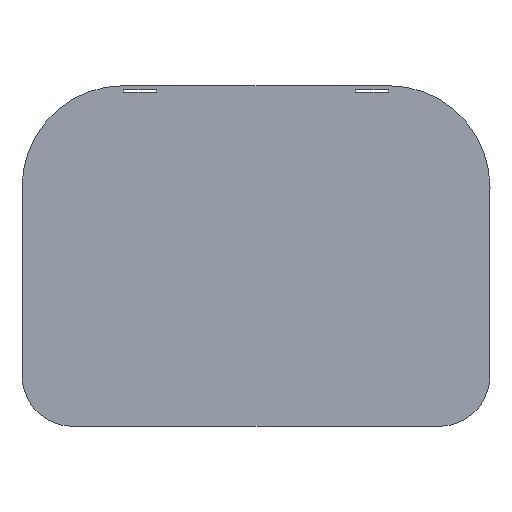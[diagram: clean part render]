
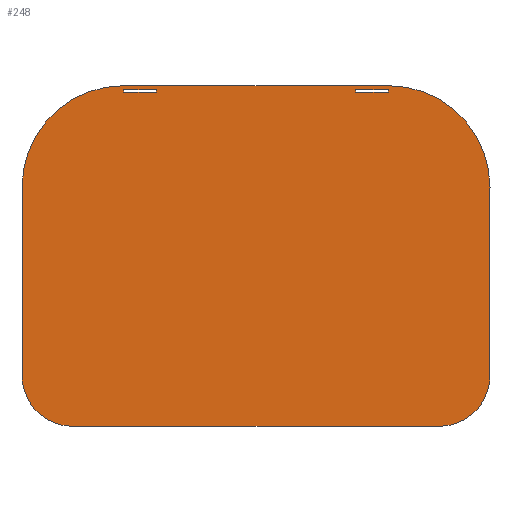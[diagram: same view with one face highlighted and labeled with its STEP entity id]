
A CAD part, top view. The second image highlights one B-rep face of the part: STEP entity #248.
In plain terms, the highlighted planar face has unit normal (0, 0, 1).
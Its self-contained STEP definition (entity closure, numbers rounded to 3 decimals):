
#7 = EDGE_CURVE ( 'NONE', #526, #590, #242, .T. ) ;
#11 = DIRECTION ( 'NONE',  ( 0., -1., 0. ) ) ;
#19 = AXIS2_PLACEMENT_3D ( 'NONE', #596, #556, #226 ) ;
#24 = CARTESIAN_POINT ( 'NONE',  ( 97573.971, 51266.605, 1.2 ) ) ;
#26 = EDGE_CURVE ( 'NONE', #184, #189, #566, .T. ) ;
#39 = LINE ( 'NONE', #360, #333 ) ;
#55 = DIRECTION ( 'NONE',  ( 0., -1., 0. ) ) ;
#57 = EDGE_CURVE ( 'NONE', #590, #597, #208, .T. ) ;
#61 = EDGE_CURVE ( 'NONE', #283, #174, #586, .T. ) ;
#63 = LINE ( 'NONE', #432, #537 ) ;
#72 = EDGE_CURVE ( 'NONE', #398, #263, #229, .T. ) ;
#77 = LINE ( 'NONE', #160, #152 ) ;
#81 = ORIENTED_EDGE ( 'NONE', *, *, #611, .F. ) ;
#84 = EDGE_CURVE ( 'NONE', #490, #184, #438, .T. ) ;
#85 = ORIENTED_EDGE ( 'NONE', *, *, #7, .F. ) ;
#100 = VECTOR ( 'NONE', #11, 1000. ) ;
#102 = DIRECTION ( 'NONE',  ( 0., 1., 0. ) ) ;
#104 = CARTESIAN_POINT ( 'NONE',  ( 97833.971, 51266.605, 1.2 ) ) ;
#106 = DIRECTION ( 'NONE',  ( 1., 0., 0. ) ) ;
#124 = VERTEX_POINT ( 'NONE', #343 ) ;
#127 = CIRCLE ( 'NONE', #145, 50. ) ;
#133 = DIRECTION ( 'NONE',  ( 1., 0., 0. ) ) ;
#136 = CARTESIAN_POINT ( 'NONE',  ( 97605.971, 51264.105, 1.2 ) ) ;
#137 = EDGE_CURVE ( 'NONE', #377, #398, #63, .T. ) ;
#138 = CARTESIAN_POINT ( 'NONE',  ( 97833.971, 51264.105, 1.2 ) ) ;
#145 = AXIS2_PLACEMENT_3D ( 'NONE', #278, #455, #409 ) ;
#146 = VECTOR ( 'NONE', #161, 1000. ) ;
#149 = ORIENTED_EDGE ( 'NONE', *, *, #347, .T. ) ;
#151 = CARTESIAN_POINT ( 'NONE',  ( 97573.971, 51266.605, 1.2 ) ) ;
#152 = VECTOR ( 'NONE', #260, 1000. ) ;
#155 = CARTESIAN_POINT ( 'NONE',  ( 97801.971, 51266.605, 1.2 ) ) ;
#157 = CARTESIAN_POINT ( 'NONE',  ( 97801.971, 51266.605, 1.2 ) ) ;
#160 = CARTESIAN_POINT ( 'NONE',  ( 97933.971, 50985.712, 1.2 ) ) ;
#161 = DIRECTION ( 'NONE',  ( -1., 0., 0. ) ) ;
#163 = ORIENTED_EDGE ( 'NONE', *, *, #431, .T. ) ;
#165 = EDGE_CURVE ( 'NONE', #189, #222, #424, .T. ) ;
#169 = ORIENTED_EDGE ( 'NONE', *, *, #84, .F. ) ;
#172 = ORIENTED_EDGE ( 'NONE', *, *, #137, .T. ) ;
#174 = VERTEX_POINT ( 'NONE', #565 ) ;
#177 = ORIENTED_EDGE ( 'NONE', *, *, #511, .T. ) ;
#184 = VERTEX_POINT ( 'NONE', #138 ) ;
#187 = DIRECTION ( 'NONE',  ( -1., 0., 0. ) ) ;
#189 = VERTEX_POINT ( 'NONE', #473 ) ;
#201 = DIRECTION ( 'NONE',  ( 0., 0., 1. ) ) ;
#206 = CARTESIAN_POINT ( 'NONE',  ( 97523.971, 50985.712, 1.2 ) ) ;
#208 = LINE ( 'NONE', #151, #382 ) ;
#212 = ORIENTED_EDGE ( 'NONE', *, *, #165, .F. ) ;
#214 = CARTESIAN_POINT ( 'NONE',  ( 97833.971, 51170.605, 1.2 ) ) ;
#217 = CARTESIAN_POINT ( 'NONE',  ( 97833.971, 51270.605, 1.2 ) ) ;
#222 = VERTEX_POINT ( 'NONE', #155 ) ;
#226 = DIRECTION ( 'NONE',  ( 1., 0., 0. ) ) ;
#229 = CIRCLE ( 'NONE', #304, 50. ) ;
#231 = CARTESIAN_POINT ( 'NONE',  ( 97605.971, 51264.105, 1.2 ) ) ;
#237 = EDGE_LOOP ( 'NONE', ( #212, #383, #169, #324 ) ) ;
#242 = LINE ( 'NONE', #428, #303 ) ;
#243 = EDGE_CURVE ( 'NONE', #222, #490, #583, .T. ) ;
#246 = DIRECTION ( 'NONE',  ( 0., 0., 1. ) ) ;
#247 = DIRECTION ( 'NONE',  ( 1., 0., 0. ) ) ;
#248 = ADVANCED_FACE ( 'NONE', ( #476, #405, #512 ), #507, .T. ) ;
#250 = CARTESIAN_POINT ( 'NONE',  ( 97833.971, 51270.605, 1.2 ) ) ;
#256 = LINE ( 'NONE', #24, #368 ) ;
#257 = EDGE_LOOP ( 'NONE', ( #445, #547, #163, #172, #401, #177, #275, #149 ) ) ;
#260 = DIRECTION ( 'NONE',  ( 0., 1., 0. ) ) ;
#263 = VERTEX_POINT ( 'NONE', #370 ) ;
#275 = ORIENTED_EDGE ( 'NONE', *, *, #292, .T. ) ;
#276 = CARTESIAN_POINT ( 'NONE',  ( 97605.971, 51266.605, 1.2 ) ) ;
#278 = CARTESIAN_POINT ( 'NONE',  ( 97883.971, 50985.712, 1.2 ) ) ;
#283 = VERTEX_POINT ( 'NONE', #217 ) ;
#286 = AXIS2_PLACEMENT_3D ( 'NONE', #481, #530, #106 ) ;
#292 = EDGE_CURVE ( 'NONE', #423, #569, #127, .T. ) ;
#293 = DIRECTION ( 'NONE',  ( 0., 1., 0. ) ) ;
#297 = EDGE_LOOP ( 'NONE', ( #81, #609, #501, #85 ) ) ;
#303 = VECTOR ( 'NONE', #102, 1000. ) ;
#304 = AXIS2_PLACEMENT_3D ( 'NONE', #206, #201, #247 ) ;
#324 = ORIENTED_EDGE ( 'NONE', *, *, #243, .F. ) ;
#326 = CARTESIAN_POINT ( 'NONE',  ( 97801.971, 51264.105, 1.2 ) ) ;
#333 = VECTOR ( 'NONE', #133, 1000. ) ;
#338 = CARTESIAN_POINT ( 'NONE',  ( 97801.971, 51264.105, 1.2 ) ) ;
#340 = CARTESIAN_POINT ( 'NONE',  ( 97883.971, 50935.712, 1.2 ) ) ;
#343 = CARTESIAN_POINT ( 'NONE',  ( 97573.971, 51264.105, 1.2 ) ) ;
#347 = EDGE_CURVE ( 'NONE', #569, #510, #77, .T. ) ;
#349 = DIRECTION ( 'NONE',  ( 1., 0., 0. ) ) ;
#360 = CARTESIAN_POINT ( 'NONE',  ( 97523.971, 50935.712, 1.2 ) ) ;
#362 = VECTOR ( 'NONE', #386, 1000. ) ;
#368 = VECTOR ( 'NONE', #396, 1000. ) ;
#370 = CARTESIAN_POINT ( 'NONE',  ( 97523.971, 50935.712, 1.2 ) ) ;
#377 = VERTEX_POINT ( 'NONE', #478 ) ;
#382 = VECTOR ( 'NONE', #393, 1000. ) ;
#383 = ORIENTED_EDGE ( 'NONE', *, *, #26, .F. ) ;
#386 = DIRECTION ( 'NONE',  ( 1., 0., 0. ) ) ;
#389 = CIRCLE ( 'NONE', #470, 100. ) ;
#392 = CARTESIAN_POINT ( 'NONE',  ( 97473.971, 50985.712, 1.2 ) ) ;
#393 = DIRECTION ( 'NONE',  ( -1., 0., 0. ) ) ;
#396 = DIRECTION ( 'NONE',  ( 0., -1., 0. ) ) ;
#397 = EDGE_CURVE ( 'NONE', #510, #283, #389, .T. ) ;
#398 = VERTEX_POINT ( 'NONE', #392 ) ;
#401 = ORIENTED_EDGE ( 'NONE', *, *, #72, .T. ) ;
#405 = FACE_BOUND ( 'NONE', #297, .T. ) ;
#409 = DIRECTION ( 'NONE',  ( 1., 0., 0. ) ) ;
#423 = VERTEX_POINT ( 'NONE', #340 ) ;
#424 = LINE ( 'NONE', #427, #578 ) ;
#427 = CARTESIAN_POINT ( 'NONE',  ( 97833.971, 51266.605, 1.2 ) ) ;
#428 = CARTESIAN_POINT ( 'NONE',  ( 97605.971, 51266.605, 1.2 ) ) ;
#431 = EDGE_CURVE ( 'NONE', #174, #377, #554, .T. ) ;
#432 = CARTESIAN_POINT ( 'NONE',  ( 97473.971, 51170.605, 1.2 ) ) ;
#438 = LINE ( 'NONE', #338, #362 ) ;
#439 = VECTOR ( 'NONE', #293, 1000. ) ;
#445 = ORIENTED_EDGE ( 'NONE', *, *, #397, .T. ) ;
#449 = DIRECTION ( 'NONE',  ( 1., 0., 0. ) ) ;
#455 = DIRECTION ( 'NONE',  ( 0., 0., 1. ) ) ;
#462 = CARTESIAN_POINT ( 'NONE',  ( 97573.971, 51266.605, 1.2 ) ) ;
#464 = EDGE_CURVE ( 'NONE', #597, #124, #256, .T. ) ;
#465 = CARTESIAN_POINT ( 'NONE',  ( 97933.971, 51170.605, 1.2 ) ) ;
#466 = VECTOR ( 'NONE', #449, 1000. ) ;
#470 = AXIS2_PLACEMENT_3D ( 'NONE', #214, #246, #349 ) ;
#473 = CARTESIAN_POINT ( 'NONE',  ( 97833.971, 51266.605, 1.2 ) ) ;
#476 = FACE_OUTER_BOUND ( 'NONE', #257, .T. ) ;
#478 = CARTESIAN_POINT ( 'NONE',  ( 97473.971, 51170.605, 1.2 ) ) ;
#481 = CARTESIAN_POINT ( 'NONE',  ( 97573.971, 51170.605, 1.2 ) ) ;
#490 = VERTEX_POINT ( 'NONE', #326 ) ;
#501 = ORIENTED_EDGE ( 'NONE', *, *, #57, .F. ) ;
#507 = PLANE ( 'NONE',  #19 ) ;
#510 = VERTEX_POINT ( 'NONE', #465 ) ;
#511 = EDGE_CURVE ( 'NONE', #263, #423, #39, .T. ) ;
#512 = FACE_BOUND ( 'NONE', #237, .T. ) ;
#526 = VERTEX_POINT ( 'NONE', #136 ) ;
#530 = DIRECTION ( 'NONE',  ( 0., 0., 1. ) ) ;
#537 = VECTOR ( 'NONE', #55, 1000. ) ;
#547 = ORIENTED_EDGE ( 'NONE', *, *, #61, .T. ) ;
#554 = CIRCLE ( 'NONE', #286, 100. ) ;
#556 = DIRECTION ( 'NONE',  ( 0., 0., 1. ) ) ;
#563 = LINE ( 'NONE', #231, #466 ) ;
#565 = CARTESIAN_POINT ( 'NONE',  ( 97573.971, 51270.605, 1.2 ) ) ;
#566 = LINE ( 'NONE', #104, #439 ) ;
#569 = VERTEX_POINT ( 'NONE', #591 ) ;
#578 = VECTOR ( 'NONE', #187, 1000. ) ;
#583 = LINE ( 'NONE', #157, #100 ) ;
#586 = LINE ( 'NONE', #250, #146 ) ;
#590 = VERTEX_POINT ( 'NONE', #276 ) ;
#591 = CARTESIAN_POINT ( 'NONE',  ( 97933.971, 50985.712, 1.2 ) ) ;
#596 = CARTESIAN_POINT ( 'NONE',  ( 97833.971, 51170.605, 1.2 ) ) ;
#597 = VERTEX_POINT ( 'NONE', #462 ) ;
#609 = ORIENTED_EDGE ( 'NONE', *, *, #464, .F. ) ;
#611 = EDGE_CURVE ( 'NONE', #124, #526, #563, .T. ) ;
